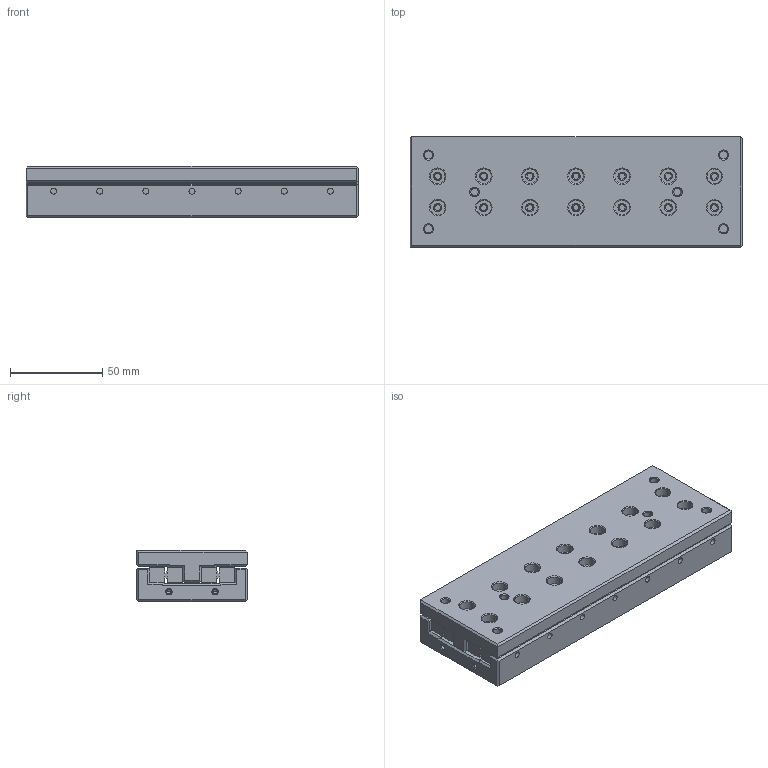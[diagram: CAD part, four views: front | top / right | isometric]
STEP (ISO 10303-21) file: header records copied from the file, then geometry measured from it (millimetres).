
FILE_DESCRIPTION(/* description */ (''),/* implementation_level */ '2;1');
FILE_NAME(/* name */ 'cru3180_stp.stp',/* time_stamp */ '2017-02-28T08:56:46+08:00',/* author */ (''),/* organization */ (''),/* preprocessor_version */ 'ST-DEVELOPER v15',/* originating_system */ 'SIEMENS PLM Software NX 8.5',/* authorisation */ '');
FILE_SCHEMA (('AUTOMOTIVE_DESIGN { 1 0 10303 214 3 1 1 1 }'));
Length unit declared in the file: millimetre
Products named in the file (4): CRU3180-02; CRU3180-GV3175; CRU3180-01; cru3180_stp
Assembly tree (4 placements, depth 2):
  cru3180_stp
    CRU3180-01
    CRU3180-GV3175  x2
    CRU3180-02
Bounding box: 180 x 60 x 28 mm (x, y, z)
Volume: 268218.8 mm3; surface area: 94797.3 mm2
Topology: 4 solids, 4 shells, 727 faces, 1706 edges, 1043 vertices
Faces by surface type: cylinder 302, cone 238, plane 187
Entity records: 17744 total; most frequent: CARTESIAN_POINT 3433, DIRECTION 3116, ORIENTED_EDGE 2812, EDGE_CURVE 1406, AXIS2_PLACEMENT_3D 1290, VERTEX_POINT 863, EDGE_LOOP 791, CIRCLE 684
